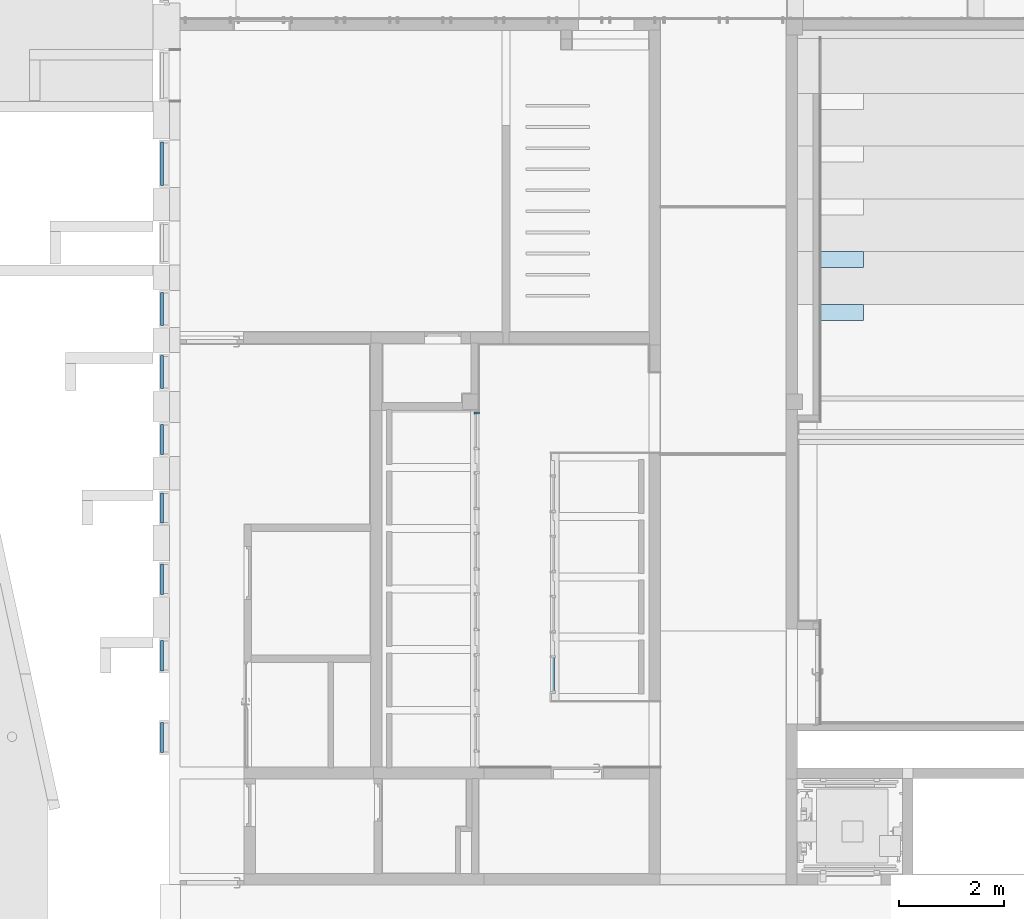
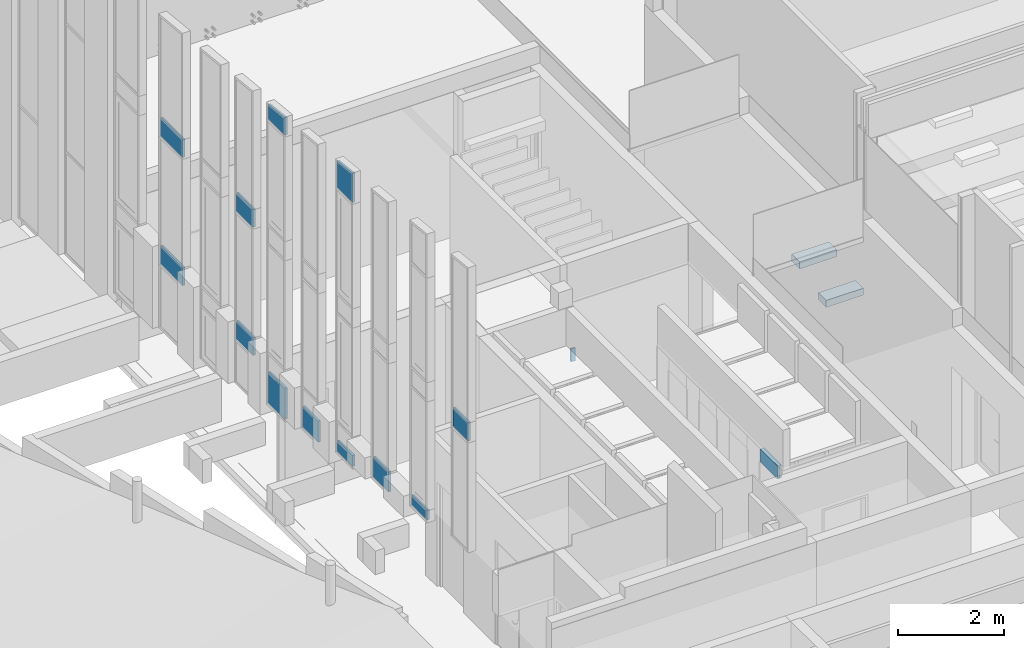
# One storey, part 107 of 246: 14 plates, 2 slabs, 10 elements without a shape of their own.
"""IFC2X3 building model written with IfcOpenShell, lengths in millimetres."""

from ifc_helpers import new_model, entity, si_unit, converted_unit, derived_unit, money_unit, direction, frame, origin_with_axes, place, context, subcontext, project, spatial, faceted_brep, material, material_list, type_object, element, aggregate, save


model = new_model("IFC2X3")

# Units and contexts
model_context = context("Model", 3, precision=0.01, world=origin_with_axes(), true_north=direction((0.0, 1.0)))
body_context = subcontext(model_context, "Body", "Model", "MODEL_VIEW")
ifc_project = project(units=[si_unit("LENGTHUNIT", "METRE", prefix="MILLI"), si_unit("AREAUNIT", "SQUARE_METRE"), si_unit("VOLUMEUNIT", "CUBIC_METRE"), converted_unit("PLANEANGLEUNIT", "DEGREE", entity("IfcPlaneAngleMeasure", 0.0174532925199), si_unit("PLANEANGLEUNIT", "RADIAN"), dimensions=[0, 0, 0, 0, 0, 0, 0]), si_unit("SOLIDANGLEUNIT", "STERADIAN"), money_unit("EUR"), converted_unit("TIMEUNIT", "Year", entity("IfcTimeMeasure", 31556926.0), si_unit("TIMEUNIT", "SECOND"), dimensions=[0, 0, 1, 0, 0, 0, 0]), si_unit("MASSUNIT", "GRAM", prefix="KILO"), si_unit("THERMODYNAMICTEMPERATUREUNIT", "DEGREE_CELSIUS"), si_unit("LUMINOUSINTENSITYUNIT", "LUMEN"), si_unit("ENERGYUNIT", "JOULE", prefix="MEGA"), derived_unit("THERMALCONDUCTANCEUNIT", [(si_unit("POWERUNIT", "WATT"), 1), (si_unit("LENGTHUNIT", "METRE"), -1), (si_unit("THERMODYNAMICTEMPERATUREUNIT", "KELVIN"), -1)]), derived_unit("SPECIFICHEATCAPACITYUNIT", [(si_unit("ENERGYUNIT", "JOULE"), 1), (si_unit("MASSUNIT", "GRAM", prefix="KILO"), -1), (si_unit("THERMODYNAMICTEMPERATUREUNIT", "KELVIN"), -1)]), derived_unit("MASSDENSITYUNIT", [(si_unit("MASSUNIT", "GRAM", prefix="KILO"), 1), (si_unit("VOLUMEUNIT", "CUBIC_METRE"), -1)])], contexts=[model_context])

# Site, building, storey
site_placement = place(None, origin_with_axes())
site = spatial("IfcSite", under=ifc_project, at=site_placement, Name="L.Koidula tn 11b", CompositionType="ELEMENT")
building_placement = place(site_placement, origin_with_axes())
building = spatial("IfcBuilding", under=site, at=building_placement, Name="Rakvere Riigigümnaasium", CompositionType="ELEMENT")
storey_placement = place(building_placement, origin_with_axes())
storey = spatial("IfcBuildingStorey", under=building, at=storey_placement, Name="1.korrus 0,00", CompositionType="ELEMENT", Elevation=0.0)

# Curtain wall, plates
curtain_wall_type = type_object("IfcCurtainWallType", Name="Curtain Wall Type", PredefinedType="NOTDEFINED")
curtain_wall_1_placement = place(storey_placement, frame((35156.0871538, 28760.4555979, 1840.0), z_axis=(0.0, 0.0, 1.0), x_axis=(1.0, 0.0, 0.0)))
curtain_wall_1 = element("IfcCurtainWall", 1, at=curtain_wall_1_placement, inside=storey, type_object=curtain_wall_type, Name="KLF-04-02")
ifc_material_1 = material(Name="Klaaspakett- taustvärvitud klaas 3x")
plate_type_1 = type_object("IfcPlateType", Name="826 x 421 x 54", PredefinedType="CURTAIN_PANEL")
plate_1_placement = place(curtain_wall_1_placement, frame((0.0, 0.0, 4627.50005204), z_axis=(0.0, 0.0, 1.0), x_axis=(0.0, 1.0, 0.0)))
plate_1 = element("IfcPlate", 2, at=plate_1_placement, type_object=plate_type_1, material=ifc_material_1, Name="KLF-04-02-Klaasid", ObjectType="CURTAIN_PANEL", context=body_context, shape_type="Brep", body=[
    faceted_brep([(-412.999899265, -27.0, 210.499993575), (412.999923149, -27.0, 210.499993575), (412.999923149, 27.0, 210.499993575), (-412.999899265, 27.0, 210.499993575), (-412.999952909, -27.0, -210.500001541), (412.999923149, -27.0, -210.500001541), (412.999923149, 27.0, -210.500001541), (-412.999952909, 27.0, -210.500001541)], [[[0, 1, 2, 3]], [[0, 4, 5, 1]], [[1, 5, 6, 2]], [[3, 2, 6, 7]], [[4, 0, 3, 7]], [[5, 4, 7, 6]]]),
])
plate_2_placement = place(curtain_wall_1_placement, frame((0.0, -4.20050447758e-05, 1682.50005204), z_axis=(0.0, 0.0, 1.0), x_axis=(0.0, 1.0, 0.0)))
plate_2 = element("IfcPlate", 3, at=plate_2_placement, type_object=plate_type_1, material=ifc_material_1, Name="KLF-04-02-Klaasid", ObjectType="CURTAIN_PANEL", context=body_context, shape_type="Brep", body=[
    faceted_brep([(-412.999921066, -27.0, 210.500005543), (412.999974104, -27.0, 210.500005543), (412.999974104, 27.0, 210.500005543), (-412.999921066, 27.0, 210.500005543), (-413.000028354, -27.0, -210.500000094), (412.999974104, -27.0, -210.500000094), (412.999974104, 27.0, -210.500000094), (-413.000028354, 27.0, -210.500000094)], [[[0, 1, 2, 3]], [[0, 4, 5, 1]], [[1, 5, 6, 2]], [[3, 2, 6, 7]], [[4, 0, 3, 7]], [[5, 4, 7, 6]]]),
])
aggregate(curtain_wall_1, [plate_1, plate_2])

# Curtain wall, plate
curtain_wall_2_placement = place(storey_placement, frame((35156.0871538, 17885.4554584, 3720.0), z_axis=(0.0, 0.0, 1.0), x_axis=(1.0, 0.0, 0.0)))
curtain_wall_2 = element("IfcCurtainWall", 4, at=curtain_wall_2_placement, inside=storey, type_object=curtain_wall_type, Name="KLF-04-10")
plate_type_2 = type_object("IfcPlateType", Name="576 x 431 x 54", PredefinedType="CURTAIN_PANEL")
plate_3_placement = place(curtain_wall_2_placement, frame((0.0, -1.17116520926e-05, 2752.50007113), z_axis=(0.0, 0.0, 1.0), x_axis=(0.0, 1.0, 0.0)))
plate_3 = element("IfcPlate", 5, at=plate_3_placement, type_object=plate_type_2, material=ifc_material_1, Name="KLF-04-10-Klaasid", ObjectType="CURTAIN_PANEL", context=body_context, shape_type="Brep", body=[
    faceted_brep([(-287.999939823, -27.0, 215.500004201), (287.999950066, -27.0, 215.500004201), (287.999950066, 27.0, 215.500004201), (-287.999939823, 27.0, 215.500004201), (-287.999959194, -27.0, -215.499998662), (287.999950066, -27.0, -215.499998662), (287.999950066, 27.0, -215.499998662), (-287.999959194, 27.0, -215.499998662)], [[[0, 1, 2, 3]], [[0, 4, 5, 1]], [[1, 5, 6, 2]], [[3, 2, 6, 7]], [[4, 0, 3, 7]], [[5, 4, 7, 6]]]),
])
aggregate(curtain_wall_2, [plate_3])

# Curtain wall, plates
curtain_wall_3_placement = place(storey_placement, frame((35156.0871538, 22235.4555038, 3003.0), z_axis=(0.0, 0.0, 1.0), x_axis=(1.0, 0.0, 0.0)))
curtain_wall_3 = element("IfcCurtainWall", 6, at=curtain_wall_3_placement, inside=storey, type_object=curtain_wall_type, Name="KLF-04-07")
ifc_material_2 = material(Name="Klaaspakett 3x")
plate_type_3 = type_object("IfcPlateType", Name="Distinct Panel 576 x 248 x 54", PredefinedType="CURTAIN_PANEL")
plate_4_placement = place(curtain_wall_3_placement, frame((0.0, 0.0, 148.500035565), z_axis=(0.0, 0.0, 1.0), x_axis=(0.0, 1.0, 0.0)))
plate_4 = element("IfcPlate", 7, at=plate_4_placement, type_object=plate_type_3, material=ifc_material_2, Name="KLF-04-07-Klaasid", ObjectType="CURTAIN_PANEL", context=body_context, shape_type="Brep", body=[
    faceted_brep([(-288.000024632, -27.0, 136.500037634), (288.000046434, -27.0, 136.500037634), (288.000046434, 27.0, 136.500037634), (-288.000024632, 27.0, 136.500037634), (-288.000024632, -27.0, -111.500035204), (288.000007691, -27.0, -111.500035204), (288.000007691, 27.0, -111.500035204), (-288.000024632, 27.0, -111.500035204)], [[[0, 1, 2, 3]], [[0, 4, 5, 1]], [[1, 5, 6, 2]], [[3, 2, 6, 7]], [[4, 0, 3, 7]], [[5, 4, 7, 6]]]),
])
plate_type_4 = type_object("IfcPlateType", Name="Distinct Panel 576 x 613 x 54", PredefinedType="CURTAIN_PANEL")
plate_5_placement = place(curtain_wall_3_placement, frame((0.0, 7.00995634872e-05, 6433.01478538), z_axis=(0.0, 0.0, 1.0), x_axis=(0.0, 1.0, 0.0)))
plate_5 = element("IfcPlate", 8, at=plate_5_placement, type_object=plate_type_4, material=ifc_material_2, Name="KLF-04-07-Klaasid", ObjectType="CURTAIN_PANEL", context=body_context, shape_type="Brep", body=[
    faceted_brep([(-287.999952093, -27.0, 339.080962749), (288.000027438, -27.0, 278.540854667), (288.000027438, 27.0, 278.540854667), (-287.999952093, 27.0, 339.080962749), (-287.999952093, -27.0, -334.014710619), (287.999875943, -27.0, -334.014710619), (287.999875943, 27.0, -334.014710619), (-287.999952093, 27.0, -334.014710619)], [[[0, 1, 2, 3]], [[0, 4, 5, 1]], [[1, 5, 6, 2]], [[3, 2, 6, 7]], [[4, 0, 3, 7]], [[5, 4, 7, 6]]]),
])
aggregate(curtain_wall_3, [plate_4, plate_5])

# Curtain wall, plate
curtain_wall_4_placement = place(storey_placement, frame((35156.0871538, 20885.4555022, 3234.99992887), z_axis=(0.0, 0.0, 1.0), x_axis=(1.0, 0.0, 0.0)))
curtain_wall_4 = element("IfcCurtainWall", 9, at=curtain_wall_4_placement, inside=storey, type_object=curtain_wall_type, Name="KLF-04-08")
plate_type_5 = type_object("IfcPlateType", Name="576 x 461 x 54", PredefinedType="CURTAIN_PANEL")
plate_6_placement = place(curtain_wall_4_placement, frame((0.0, -1.12524070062e-05, 255.000035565), z_axis=(0.0, 0.0, 1.0), x_axis=(0.0, 1.0, 0.0)))
plate_6 = element("IfcPlate", 10, at=plate_6_placement, type_object=plate_type_5, material=ifc_material_1, Name="KLF-04-08-Klaasid", ObjectType="CURTAIN_PANEL", context=body_context, shape_type="Brep", body=[
    faceted_brep([(-287.999995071, -27.0, 243.000034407), (287.999995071, -27.0, 243.000034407), (287.999995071, 27.0, 243.000034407), (-287.999995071, 27.0, 243.000034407), (-287.999995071, -27.0, -218.000040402), (287.999995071, -27.0, -218.000040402), (287.999995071, 27.0, -218.000040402), (-287.999995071, 27.0, -218.000040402)], [[[0, 1, 2, 3]], [[0, 4, 5, 1]], [[1, 5, 6, 2]], [[3, 2, 6, 7]], [[4, 0, 3, 7]], [[5, 4, 7, 6]]]),
])
aggregate(curtain_wall_4, [plate_6])

curtain_wall_5_placement = place(storey_placement, frame((35156.0871538, 19435.4554934, 3468.0), z_axis=(0.0, 0.0, 1.0), x_axis=(1.0, 0.0, 0.0)))
curtain_wall_5 = element("IfcCurtainWall", 11, at=curtain_wall_5_placement, inside=storey, type_object=curtain_wall_type, Name="KLF-04-09")
plate_type_6 = type_object("IfcPlateType", Name="576 x 228 x 54", PredefinedType="CURTAIN_PANEL")
plate_7_placement = place(curtain_wall_5_placement, frame((0.0, 2.3627606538e-05, 138.500035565), z_axis=(0.0, 0.0, 1.0), x_axis=(0.0, 1.0, 0.0)))
plate_7 = element("IfcPlate", 12, at=plate_7_placement, type_object=plate_type_6, material=ifc_material_1, Name="KLF-04-09-Klaasid", ObjectType="CURTAIN_PANEL", context=body_context, shape_type="Brep", body=[
    faceted_brep([(-288.000048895, -27.0, 126.500039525), (288.000048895, -27.0, 126.500039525), (288.000048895, 27.0, 126.500039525), (-288.000048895, 27.0, 126.500039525), (-288.000048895, -27.0, -101.500033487), (288.000048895, -27.0, -101.500033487), (288.000048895, 27.0, -101.500033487), (-288.000048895, 27.0, -101.500033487)], [[[0, 1, 2, 3]], [[0, 4, 5, 1]], [[1, 5, 6, 2]], [[3, 2, 6, 7]], [[4, 0, 3, 7]], [[5, 4, 7, 6]]]),
])
aggregate(curtain_wall_5, [plate_7])

# Curtain wall, plates
curtain_wall_6_placement = place(storey_placement, frame((35156.0871538, 26010.4555274, 2305.0), z_axis=(0.0, 0.0, 1.0), x_axis=(1.0, 0.0, 0.0)))
curtain_wall_6 = element("IfcCurtainWall", 13, at=curtain_wall_6_placement, inside=storey, type_object=curtain_wall_type, Name="KLF-04-04")
plate_type_7 = type_object("IfcPlateType", Name="626 x 421 x 54", PredefinedType="CURTAIN_PANEL")
plate_8_placement = place(curtain_wall_6_placement, frame((0.0, 4.00420390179e-05, 4162.50005204), z_axis=(0.0, 0.0, 1.0), x_axis=(0.0, 1.0, 0.0)))
plate_8 = element("IfcPlate", 14, at=plate_8_placement, type_object=plate_type_7, material=ifc_material_1, Name="KLF-04-04-Klaasid", ObjectType="CURTAIN_PANEL", context=body_context, shape_type="Brep", body=[
    faceted_brep([(-312.999911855, -27.0, 210.499999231), (312.999936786, -27.0, 210.499999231), (312.999936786, 27.0, 210.499999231), (-312.999911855, 27.0, 210.499999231), (-312.999964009, -27.0, -210.499997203), (312.999936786, -27.0, -210.499997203), (312.999936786, 27.0, -210.499997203), (-312.999964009, 27.0, -210.499997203)], [[[0, 1, 2, 3]], [[0, 4, 5, 1]], [[1, 5, 6, 2]], [[3, 2, 6, 7]], [[4, 0, 3, 7]], [[5, 4, 7, 6]]]),
])
plate_9_placement = place(curtain_wall_6_placement, frame((0.0, -2.64303459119e-05, 1217.50005204), z_axis=(0.0, 0.0, 1.0), x_axis=(0.0, 1.0, 0.0)))
plate_9 = element("IfcPlate", 15, at=plate_9_placement, type_object=plate_type_7, material=ifc_material_1, Name="KLF-04-04-Klaasid", ObjectType="CURTAIN_PANEL", context=body_context, shape_type="Brep", body=[
    faceted_brep([(-313.000008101, -27.0, 210.500002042), (313.000008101, -27.0, 210.500002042), (313.000008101, 27.0, 210.500002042), (-313.000008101, 27.0, 210.500002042), (-313.000008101, -27.0, -210.49999539), (313.000008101, -27.0, -210.49999539), (313.000008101, 27.0, -210.49999539), (-313.000008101, 27.0, -210.49999539)], [[[0, 1, 2, 3]], [[0, 4, 5, 1]], [[1, 5, 6, 2]], [[3, 2, 6, 7]], [[4, 0, 3, 7]], [[5, 4, 7, 6]]]),
])
aggregate(curtain_wall_6, [plate_8, plate_9])

curtain_wall_7_placement = place(storey_placement, frame((35156.0871538, 24810.4554726, 2540.0), z_axis=(0.0, 0.0, 1.0), x_axis=(1.0, 0.0, 0.0)))
curtain_wall_7 = element("IfcCurtainWall", 16, at=curtain_wall_7_placement, inside=storey, type_object=curtain_wall_type, Name="KLF-04-05")
plate_type_8 = type_object("IfcPlateType", Name="Distinct Panel 626 x 339 x 54", PredefinedType="CURTAIN_PANEL")
plate_10_placement = place(curtain_wall_7_placement, frame((0.0, 1.48978642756e-05, 6760.69308617), z_axis=(0.0, 0.0, 1.0), x_axis=(0.0, 1.0, 0.0)))
plate_10 = element("IfcPlate", 17, at=plate_10_placement, type_object=plate_type_8, material=ifc_material_2, Name="KLF-04-05-Klaasid", ObjectType="CURTAIN_PANEL", context=body_context, shape_type="Brep", body=[
    faceted_brep([(-313.000002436, -27.0, 206.386852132), (313.000014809, -27.0, 140.5916098), (313.000014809, 27.0, 140.5916098), (-313.000002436, 27.0, 206.386852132), (-313.000002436, -27.0, -198.693029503), (312.999983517, -27.0, -198.693029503), (312.999983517, 27.0, -198.693029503), (-313.000002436, 27.0, -198.693029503)], [[[0, 1, 2, 3]], [[0, 4, 5, 1]], [[1, 5, 6, 2]], [[3, 2, 6, 7]], [[4, 0, 3, 7]], [[5, 4, 7, 6]]]),
])
plate_type_9 = type_object("IfcPlateType", Name="Distinct Panel 626 x 711 x 54", PredefinedType="CURTAIN_PANEL")
plate_11_placement = place(curtain_wall_7_placement, frame((0.0, 0.0, 380.00002602), z_axis=(0.0, 0.0, 1.0), x_axis=(0.0, 1.0, 0.0)))
plate_11 = element("IfcPlate", 18, at=plate_11_placement, type_object=plate_type_9, material=ifc_material_2, Name="KLF-04-05-Klaasid", ObjectType="CURTAIN_PANEL", context=body_context, shape_type="Brep", body=[
    faceted_brep([(-313.00000031, -27.0, 368.000021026), (312.999997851, -27.0, 368.000021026), (312.999997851, 27.0, 368.000021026), (-313.00000031, 27.0, 368.000021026), (-313.00000031, -27.0, -343.000022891), (312.999997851, -27.0, -343.000022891), (312.999997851, 27.0, -343.000022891), (-313.00000031, 27.0, -343.000022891)], [[[0, 1, 2, 3]], [[0, 4, 5, 1]], [[1, 5, 6, 2]], [[3, 2, 6, 7]], [[4, 0, 3, 7]], [[5, 4, 7, 6]]]),
])
aggregate(curtain_wall_7, [plate_10, plate_11])

# Curtain wall, plate
curtain_wall_8_placement = place(storey_placement, frame((35156.0871538, 23535.4555553, 2770.0), z_axis=(0.0, 0.0, 1.0), x_axis=(1.0, 0.0, 0.0)))
curtain_wall_8 = element("IfcCurtainWall", 19, at=curtain_wall_8_placement, inside=storey, type_object=curtain_wall_type, Name="KLF-04-06")
plate_type_10 = type_object("IfcPlateType", Name="Distinct Panel 576 x 481 x 54", PredefinedType="CURTAIN_PANEL")
plate_12_placement = place(curtain_wall_8_placement, frame((0.0, 0.0, 265.00002602), z_axis=(0.0, 0.0, 1.0), x_axis=(0.0, 1.0, 0.0)))
plate_12 = element("IfcPlate", 20, at=plate_12_placement, type_object=plate_type_10, material=ifc_material_2, Name="KLF-04-06-Klaasid", ObjectType="CURTAIN_PANEL", context=body_context, shape_type="Brep", body=[
    faceted_brep([(-287.999949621, -27.0, 253.000025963), (287.999949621, -27.0, 253.000025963), (287.999949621, 27.0, 253.000025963), (-287.999949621, 27.0, 253.000025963), (-287.999949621, -27.0, -228.000025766), (287.999949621, -27.0, -228.000025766), (287.999949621, 27.0, -228.000025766), (-287.999949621, 27.0, -228.000025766)], [[[0, 1, 2, 3]], [[0, 4, 5, 1]], [[1, 5, 6, 2]], [[3, 2, 6, 7]], [[4, 0, 3, 7]], [[5, 4, 7, 6]]]),
])
aggregate(curtain_wall_8, [plate_12])

curtain_wall_9_placement = place(storey_placement, frame((41170.0073165, 24038.4555472, 1.56205997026e-05), z_axis=(0.0, 0.0, 1.0), x_axis=(1.0, 0.0, 0.0)))
curtain_wall_9 = element("IfcCurtainWall", 21, at=curtain_wall_9_placement, inside=storey, type_object=curtain_wall_type, Name="SUS-01")
ifc_material_3 = material(Name="MDF")
ifc_material_4 = material(Name="Kipsplaat")
ifc_material_5 = material(Name="Klaasvill")
ifc_material_list = material_list([ifc_material_3, ifc_material_4, ifc_material_5])
plate_type_11 = type_object("IfcPlateType", Name="SA-Siseuksesüsteem-Paneel 34 x 300 x 0", PredefinedType="CURTAIN_PANEL")
plate_13_placement = place(curtain_wall_9_placement, frame((0.0, 0.0, 2249.99992939), z_axis=(0.0, 0.0, 1.0), x_axis=(0.0, 1.0, 0.0)))
plate_13 = element("IfcPlate", 22, at=plate_13_placement, type_object=plate_type_11, material=ifc_material_list, Name="Panel-SA-Siseuks-022", ObjectType="CURTAIN_PANEL", context=body_context, shape_type="Brep", body=[
    faceted_brep([(-17.0, 0.0, 149.99999219), (17.0, 0.0, 149.99999219), (17.0, 10.0, 149.99999219), (-17.0, 10.0, 149.99999219), (-17.0, 0.0, -150.00000781), (17.0, 0.0, -150.00000781), (17.0, 10.0, -150.00000781), (-17.0, 10.0, -150.00000781)], [[[0, 1, 2, 3]], [[0, 4, 5, 1]], [[1, 5, 6, 2]], [[3, 2, 6, 7]], [[4, 0, 3, 7]], [[5, 4, 7, 6]]]),
    faceted_brep([(-17.0, 12.0, 149.99999219), (17.0, 12.0, 149.99999219), (17.0, 25.0, 149.99999219), (-17.0, 25.0, 149.99999219), (-17.0, 12.0, -150.00000781), (17.0, 12.0, -150.00000781), (17.0, 25.0, -150.00000781), (-17.0, 25.0, -150.00000781)], [[[0, 1, 2, 3]], [[0, 4, 5, 1]], [[1, 5, 6, 2]], [[3, 2, 6, 7]], [[4, 0, 3, 7]], [[5, 4, 7, 6]]]),
    faceted_brep([(-17.0, 25.0, 149.99999219), (17.0, 25.0, 149.99999219), (17.0, 38.0, 149.99999219), (-17.0, 38.0, 149.99999219), (-17.0, 25.0, -150.00000781), (17.0, 25.0, -150.00000781), (17.0, 38.0, -150.00000781), (-17.0, 38.0, -150.00000781)], [[[0, 1, 2, 3]], [[0, 4, 5, 1]], [[1, 5, 6, 2]], [[3, 2, 6, 7]], [[4, 0, 3, 7]], [[5, 4, 7, 6]]]),
    faceted_brep([(-17.0, 42.0, 149.99999219), (17.0, 42.0, 149.99999219), (17.0, 79.0, 149.99999219), (-17.0, 79.0, 149.99999219), (-17.0, 42.0, -150.00000781), (17.0, 42.0, -150.00000781), (17.0, 79.0, -150.00000781), (-17.0, 79.0, -150.00000781)], [[[0, 1, 2, 3]], [[0, 4, 5, 1]], [[1, 5, 6, 2]], [[3, 2, 6, 7]], [[4, 0, 3, 7]], [[5, 4, 7, 6]]]),
    faceted_brep([(-17.0, 84.0, 149.99999219), (17.0, 84.0, 149.99999219), (17.0, 92.0, 149.99999219), (-17.0, 92.0, 149.99999219), (-17.0, 84.0, -150.00000781), (17.0, 84.0, -150.00000781), (17.0, 92.0, -150.00000781), (-17.0, 92.0, -150.00000781)], [[[0, 1, 2, 3]], [[0, 4, 5, 1]], [[1, 5, 6, 2]], [[3, 2, 6, 7]], [[4, 0, 3, 7]], [[5, 4, 7, 6]]]),
])
aggregate(curtain_wall_9, [plate_13])

curtain_wall_10_placement = place(storey_placement, frame((42519.9999626, 19079.4634323, 0.0), z_axis=(0.0, 0.0, 1.0), x_axis=(1.0, 0.0, 0.0)))
curtain_wall_10 = element("IfcCurtainWall", 23, at=curtain_wall_10_placement, inside=storey, type_object=curtain_wall_type, Name="SUS-02")
plate_type_12 = type_object("IfcPlateType", Name="SA-Siseuksesüsteem-Paneel 650 x 300 x 0", PredefinedType="CURTAIN_PANEL")
plate_14_placement = place(curtain_wall_10_placement, frame((0.0, 0.0, 2249.99998859), z_axis=(0.0, 0.0, 1.0), x_axis=(0.0, -1.0, 0.0)))
plate_14 = element("IfcPlate", 24, at=plate_14_placement, type_object=plate_type_12, material=ifc_material_list, Name="Panel-SA-Siseuks-022", ObjectType="CURTAIN_PANEL", context=body_context, shape_type="Brep", body=[
    faceted_brep([(-325.007919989, 0.0, 150.0), (325.007919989, 0.0, 150.0), (325.007919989, 10.0, 150.0), (-325.007919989, 10.0, 150.0), (-325.007919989, 0.0, -150.0), (325.007919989, 0.0, -150.0), (325.007919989, 10.0, -150.0), (-325.007919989, 10.0, -150.0)], [[[0, 1, 2, 3]], [[0, 4, 5, 1]], [[1, 5, 6, 2]], [[3, 2, 6, 7]], [[4, 0, 3, 7]], [[5, 4, 7, 6]]]),
    faceted_brep([(-325.007919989, 12.0, 150.0), (325.007919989, 12.0, 150.0), (325.007919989, 25.0, 150.0), (-325.007919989, 25.0, 150.0), (-325.007919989, 12.0, -150.0), (325.007919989, 12.0, -150.0), (325.007919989, 25.0, -150.0), (-325.007919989, 25.0, -150.0)], [[[0, 1, 2, 3]], [[0, 4, 5, 1]], [[1, 5, 6, 2]], [[3, 2, 6, 7]], [[4, 0, 3, 7]], [[5, 4, 7, 6]]]),
    faceted_brep([(-325.007919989, 25.0, 150.0), (325.007919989, 25.0, 150.0), (325.007919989, 38.0, 150.0), (-325.007919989, 38.0, 150.0), (-325.007919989, 25.0, -150.0), (325.007919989, 25.0, -150.0), (325.007919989, 38.0, -150.0), (-325.007919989, 38.0, -150.0)], [[[0, 1, 2, 3]], [[0, 4, 5, 1]], [[1, 5, 6, 2]], [[3, 2, 6, 7]], [[4, 0, 3, 7]], [[5, 4, 7, 6]]]),
    faceted_brep([(-325.007919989, 42.0, 150.0), (325.007919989, 42.0, 150.0), (325.007919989, 79.0, 150.0), (-325.007919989, 79.0, 150.0), (-325.007919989, 42.0, -150.0), (325.007919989, 42.0, -150.0), (325.007919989, 79.0, -150.0), (-325.007919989, 79.0, -150.0)], [[[0, 1, 2, 3]], [[0, 4, 5, 1]], [[1, 5, 6, 2]], [[3, 2, 6, 7]], [[4, 0, 3, 7]], [[5, 4, 7, 6]]]),
    faceted_brep([(-325.007919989, 84.0, 150.0), (325.007919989, 84.0, 150.0), (325.007919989, 92.0, 150.0), (-325.007919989, 92.0, 150.0), (-325.007919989, 84.0, -150.0), (325.007919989, 84.0, -150.0), (325.007919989, 92.0, -150.0), (-325.007919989, 92.0, -150.0)], [[[0, 1, 2, 3]], [[0, 4, 5, 1]], [[1, 5, 6, 2]], [[3, 2, 6, 7]], [[4, 0, 3, 7]], [[5, 4, 7, 6]]]),
])
aggregate(curtain_wall_10, [plate_14])

# Slabs
ifc_material_6 = material(Name="Betoon")
slab_type = type_object("IfcSlabType", Name="Betoon 160", PredefinedType="NOTDEFINED")
slab_1_placement = place(storey_placement, frame((48455.5793131, 25795.4561877, 139.5), z_axis=(0.0, 0.0, 1.0), x_axis=(1.0, 0.0, 0.0)))
element("IfcSlab", 25, at=slab_1_placement, inside=storey, type_object=slab_type, material=ifc_material_6, Name="Põrand pinnasel", PredefinedType="NOTDEFINED", context=body_context, shape_type="Brep", body=[
    faceted_brep([(0.0, 0.0, 0.0), (0.0, 0.0, -160.0), (0.0, 300.0, -160.0), (0.0, 300.0, 0.0), (-810.036599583, 0.0, 0.0), (-810.036599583, 0.0, -160.0), (-810.036599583, 300.0, -160.0), (-810.036599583, 300.0, 0.0)], [[[0, 1, 2, 3]], [[4, 5, 1, 0]], [[2, 1, 5, 6]], [[3, 2, 6, 7]], [[4, 0, 3, 7]], [[7, 6, 5, 4]]]),
])
slab_2_placement = place(storey_placement, frame((48455.5793131, 26795.4555287, 418.993831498), z_axis=(0.0, 0.0, 1.0), x_axis=(1.0, 0.0, 0.0)))
element("IfcSlab", 26, at=slab_2_placement, inside=storey, type_object=slab_type, material=ifc_material_6, Name="Põrand pinnasel", PredefinedType="NOTDEFINED", context=body_context, shape_type="Brep", body=[
    faceted_brep([(0.0, 0.0, 0.0), (0.0, 0.0, -160.0), (0.0, 300.0, -160.0), (0.0, 300.0, 0.0), (-810.001816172, 0.0, 0.0), (-810.001816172, 0.0, -160.0), (-810.001816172, 300.0, -160.0), (-810.001816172, 300.0, 0.0)], [[[0, 1, 2, 3]], [[4, 5, 1, 0]], [[2, 1, 5, 6]], [[3, 2, 6, 7]], [[4, 0, 3, 7]], [[7, 6, 5, 4]]]),
])

save(model, "model.ifc")
